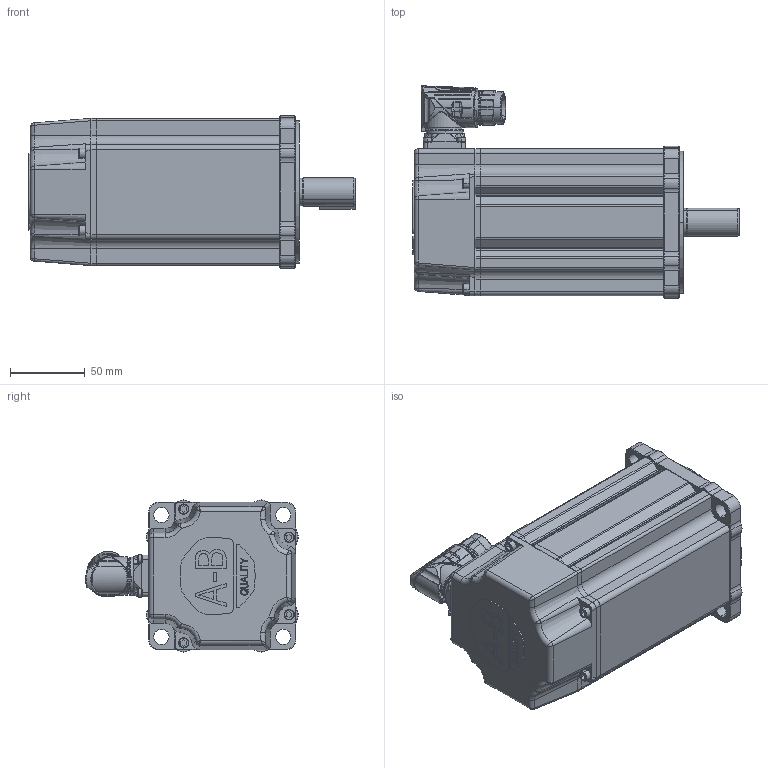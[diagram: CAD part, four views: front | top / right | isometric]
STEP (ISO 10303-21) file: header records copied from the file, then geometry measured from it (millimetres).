
FILE_DESCRIPTION (( 'STEP AP214' ), '1' );
FILE_NAME ('Rockwell Automation-$PARTNUMBER.STEP', '2014-02-18T10:22:48', ( 'Windows User' ), ( '' ), 'SwSTEP 2.0', 'SolidWorks 2014', '' );
FILE_SCHEMA (( 'AUTOMOTIVE_DESIGN' ));
Length unit declared in the file: inch
Products named in the file (9): Rockwell Automation-$PARTNUMBER_Rockwell Automation-VPL-x1153x-xJx2xx_M23_Connector; Rockwell Automation-$PARTNUMBER_Rockwell Automation-VPL-x1153x-xJx2xx_10000014326-M23_ASM; Rockwell Automation-$PARTNUMBER_Rockwell Automation-VPL-x1153x-xJx2xx_10000014326-1; Rockwell Automation-$PARTNUMBER_Rockwell Automation-VPL-x1153x-xJx2xx_10000014325-1; Rockwell Automation-$PARTNUMBER_Rockwell Automation-VPL-x1153x-xJx2xx_10000540833; Rockwell Automation-$PARTNUMBER_Rockwell Automation-VPL-x1153x-xJx2xx_VPL-115-Shaft_1153-SHAFT-KEYED; Rockwell Automation-$PARTNUMBER_Rockwell Automation-VPL-x1153x-xJx2xx_VPL-115-Body_1153; Rockwell Automation-$PARTNUMBER; Rockwell Automation-$PARTNUMBER_Rockwell Automation-VPL-x1153x-xJx2xx_91290A115_ANY
Assembly tree (11 placements, depth 4):
  Rockwell Automation-$PARTNUMBER
    Rockwell Automation-$PARTNUMBER_Rockwell Automation-VPL-x1153x-xJx2xx_VPL-115-Body_1153
    Rockwell Automation-$PARTNUMBER_Rockwell Automation-VPL-x1153x-xJx2xx_VPL-115-Shaft_1153-SHAFT-KEYED
    Rockwell Automation-$PARTNUMBER_Rockwell Automation-VPL-x1153x-xJx2xx_M23_Connector
      Rockwell Automation-$PARTNUMBER_Rockwell Automation-VPL-x1153x-xJx2xx_10000540833
      Rockwell Automation-$PARTNUMBER_Rockwell Automation-VPL-x1153x-xJx2xx_10000014325-1
      Rockwell Automation-$PARTNUMBER_Rockwell Automation-VPL-x1153x-xJx2xx_10000014326-M23_ASM
        Rockwell Automation-$PARTNUMBER_Rockwell Automation-VPL-x1153x-xJx2xx_10000014326-1
    Rockwell Automation-$PARTNUMBER_Rockwell Automation-VPL-x1153x-xJx2xx_91290A115_ANY  x4
Bounding box: 217.81 x 142 x 101.55 mm (x, y, z)
Volume: 808586.8 mm3; surface area: 203747.9 mm2
Topology: 11 solids, 17 shells, 2612 faces, 7244 edges, 4686 vertices
Faces by surface type: cylinder 831, plane 782, bspline 724, cone 255, torus 18, sphere 2
Entity records: 155425 total; most frequent: CARTESIAN_POINT 85463, ORIENTED_EDGE 14033, DIRECTION 8432, EDGE_CURVE 7023, VERTEX_POINT 4584, B_SPLINE_CURVE_WITH_KNOTS 3369, AXIS2_PLACEMENT_3D 3082, EDGE_LOOP 2673
